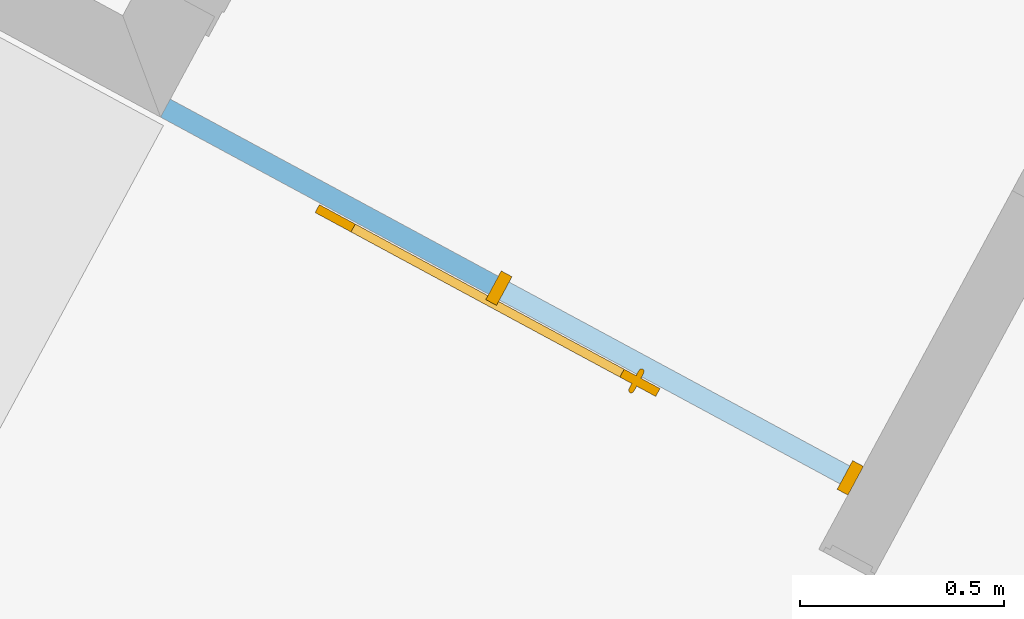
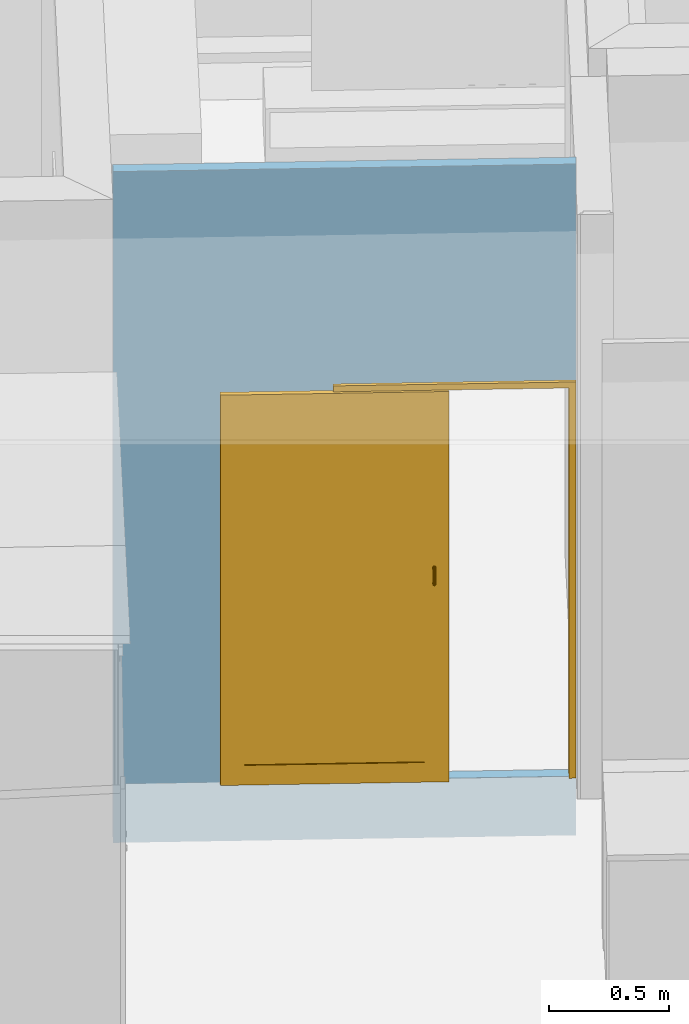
# One storey, part 8 of 41: 1 door, 1 opening, plus 1 element that does not belong to this part.
"""IFC2X3 building model written with IfcOpenShell, lengths in metres."""

from ifc_helpers import new_model, entity, si_unit, converted_unit, derived_unit, money_unit, direction, frame, origin_with_axes, place, context, subcontext, project, spatial, polyline, outline, extrude, open_shell, faceted_brep, surface_model, material, layer, layer_set, layer_usage, type_object, element, fill, save


model = new_model("IFC2X3")

# Units and contexts
model_context = context("Model", 3, precision=1e-05, world=origin_with_axes(), true_north=direction((0.0, 1.0)))
body_context = subcontext(model_context, "Body", "Model", "MODEL_VIEW")
ifc_project = project(units=[si_unit("LENGTHUNIT", "METRE"), si_unit("AREAUNIT", "SQUARE_METRE"), si_unit("VOLUMEUNIT", "CUBIC_METRE"), converted_unit("PLANEANGLEUNIT", "DEGREE", entity("IfcPlaneAngleMeasure", 0.0174532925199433), si_unit("PLANEANGLEUNIT", "RADIAN"), dimensions=[0, 0, 0, 0, 0, 0, 0]), money_unit("EUR"), converted_unit("TIMEUNIT", "Year", entity("IfcTimeMeasure", 31556926.0), si_unit("TIMEUNIT", "SECOND"), dimensions=[0, 0, 1, 0, 0, 0, 0]), si_unit("MASSUNIT", "GRAM", prefix="KILO"), si_unit("THERMODYNAMICTEMPERATUREUNIT", "DEGREE_CELSIUS"), si_unit("LUMINOUSINTENSITYUNIT", "LUMEN"), si_unit("ENERGYUNIT", "JOULE", prefix="MEGA"), derived_unit("THERMALCONDUCTANCEUNIT", [(si_unit("POWERUNIT", "WATT"), 1), (si_unit("LENGTHUNIT", "METRE"), -1), (si_unit("THERMODYNAMICTEMPERATUREUNIT", "KELVIN"), -1)]), derived_unit("SPECIFICHEATCAPACITYUNIT", [(si_unit("ENERGYUNIT", "JOULE"), 1), (si_unit("MASSUNIT", "GRAM", prefix="KILO"), -1), (si_unit("THERMODYNAMICTEMPERATUREUNIT", "KELVIN"), -1)]), derived_unit("MASSDENSITYUNIT", [(si_unit("MASSUNIT", "GRAM", prefix="KILO"), 1), (si_unit("VOLUMEUNIT", "CUBIC_METRE"), -1)])], contexts=[model_context])

# Site, building, storey
site_placement = place(None, frame((-3.949935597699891, 1.740105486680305, 0.0), z_axis=(0.0, 0.0, 1.0), x_axis=(0.8799804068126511, -0.475009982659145, 0.0)))
site = spatial("IfcSite", under=ifc_project, at=site_placement, Name="Gelände", CompositionType="ELEMENT")
building_placement = place(site_placement, origin_with_axes())
building = spatial("IfcBuilding", under=site, at=building_placement, Name="Gebäude", CompositionType="ELEMENT")
storey_placement = place(building_placement, frame((0.0, 0.0, 4.55), z_axis=(0.0, 0.0, 1.0), x_axis=(1.0, 0.0, 0.0)))
storey = spatial("IfcBuildingStorey", under=building, at=storey_placement, Name="Staffelgeschoss", CompositionType="ELEMENT", Elevation=4.55)

# Wall, opening, door
ifc_material = material(Name="ALLGEMEIN - BAUTEIL")
ifc_layer = layer(ifc_material, 0.05, ventilated="UNKNOWN")
ifc_layer_set = layer_set([ifc_layer], Name="ALLGEMEIN - BAUTEIL 0.05")
ifc_layer_usage = layer_usage(ifc_layer_set, "AXIS2", "POSITIVE", 0.0)
wall_type = type_object("IfcWallType", Name="ALLGEMEIN - BAUTEIL 50", PredefinedType="NOTDEFINED")
wall_placement = place(storey_placement, frame((17.36749336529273, 5.71806071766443, -0.2999999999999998), z_axis=(0.0, 0.0, 1.0), x_axis=(1.0, 0.0, 0.0)))
wall = element("IfcWallStandardCase", 1, at=wall_placement, inside=storey, type_object=wall_type, material=ifc_layer_usage, Name="I-Wand034", ObjectType="NOTDEFINED", context=body_context, shape_type="SweptSolid", body=[
    extrude(outline(polyline([(0.0, 0.0), (1.925039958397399, 0.0), (1.925039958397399, 0.04999999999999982), (0.0, 0.04999999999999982), (0.0, 0.0)])), origin_with_axes(), (0.0, 0.0, 1.0), 3.404999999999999),
])
opening_placement = place(wall_placement, frame((1.4200399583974, 0.0, 0.2999999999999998), z_axis=(0.0, 0.0, 1.0), x_axis=(1.0, 0.0, 0.0)))
opening = element("IfcOpeningElement", 2, at=opening_placement, cuts=wall, Name="I-Wand056", context=body_context, shape_type="Brep", body=[
    faceted_brep([(-0.504999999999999, 0.0, 0.0), (-0.504999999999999, 0.0, 1.98), (-0.504999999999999, -0.001000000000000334, 1.98), (-0.504999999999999, -0.001000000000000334, 2.01), (-0.504999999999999, 0.05100000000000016, 2.01), (-0.504999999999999, 0.05100000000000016, 0.0), (-1.515000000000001, 0.0, 0.0), (-1.515000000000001, 0.0, 1.98), (-1.515000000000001, -0.03000000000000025, 1.98), (-0.504999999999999, -0.03000000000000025, 1.98), (-0.504999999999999, -0.001000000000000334, 0.0), (0.504999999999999, -0.001000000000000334, 0.0), (0.504999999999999, -0.001000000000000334, 2.01), (0.504999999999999, 0.05100000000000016, 2.01), (0.504999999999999, 0.05100000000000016, 0.0), (-0.504999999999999, -0.03000000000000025, 0.0), (-1.515000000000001, -0.03000000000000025, 0.0)], [[[0, 1, 2, 3, 4, 5]], [[1, 0, 6, 7]], [[2, 1, 7, 8, 9]], [[2, 10, 11, 12, 3]], [[13, 4, 3, 12]], [[14, 5, 4, 13]], [[10, 0, 5, 14, 11]], [[0, 10, 15, 16, 6]], [[8, 7, 6, 16]], [[9, 8, 16, 15]], [[10, 2, 9, 15]], [[14, 13, 12, 11]]]),
])
door_style = type_object("IfcDoorStyle", Name="Schiebetür 02 1 22", ConstructionType="NOTDEFINED", OperationType="SLIDING_TO_RIGHT", ParameterTakesPrecedence=False, Sizeable=False)
door_placement = place(opening_placement, frame((-0.5050000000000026, 0.0, 0.0), z_axis=(0.0, 0.0, 1.0), x_axis=(1.0, 0.0, 0.0)))
door = element("IfcDoor", 3, at=door_placement, inside=storey, type_object=door_style, Name="I-Wand056", ObjectType="DOOR", OverallHeight=2.01, OverallWidth=1.01, context=body_context, shape_type="SurfaceModel", body=[
    faceted_brep([(0.0, 0.0649999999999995, 0.0), (0.02999999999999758, 0.0649999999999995, 0.0), (0.02999999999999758, 0.04999999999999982, 0.0), (0.0, 0.04999999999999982, 0.0), (0.0, 0.0649999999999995, 2.01), (1.009999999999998, 0.0649999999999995, 2.01), (1.009999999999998, 0.0649999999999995, 0.0), (0.9800000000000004, 0.0649999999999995, 0.0), (0.9800000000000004, 0.0649999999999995, 1.98), (0.02999999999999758, 0.0649999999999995, 1.98), (0.02999999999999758, 0.04999999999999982, 1.98), (0.9800000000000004, 0.04999999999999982, 1.98), (0.9800000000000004, 0.04999999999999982, 0.0), (1.009999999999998, 0.04999999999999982, 0.0), (1.009999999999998, 0.04999999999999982, 2.01), (0.0, 0.04999999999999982, 2.01)], [[[0, 1, 2, 3]], [[0, 4, 5, 6, 7, 8, 9, 1]], [[1, 9, 10, 2]], [[3, 2, 10, 11, 12, 13, 14, 15]], [[4, 0, 3, 15]], [[5, 4, 15, 14]], [[6, 5, 14, 13]], [[7, 6, 13, 12]], [[8, 7, 12, 11]], [[9, 8, 11, 10]]]),
    faceted_brep([(0.0, 0.04999999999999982, 0.0), (0.02999999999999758, 0.04999999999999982, 0.0), (0.02999999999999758, 0.0, 0.0), (0.0, 0.0, 0.0), (0.0, 0.04999999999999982, 2.01), (1.009999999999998, 0.04999999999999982, 2.01), (1.009999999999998, 0.04999999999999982, 0.0), (0.9800000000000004, 0.04999999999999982, 0.0), (0.9800000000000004, 0.04999999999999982, 1.98), (0.02999999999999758, 0.04999999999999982, 1.98), (0.02999999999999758, 0.0, 1.98), (0.9800000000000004, 0.0, 1.98), (0.9800000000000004, 0.0, 0.0), (1.009999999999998, 0.0, 0.0), (1.009999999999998, 0.0, 2.01), (0.0, 0.0, 2.01)], [[[0, 1, 2, 3]], [[0, 4, 5, 6, 7, 8, 9, 1]], [[1, 9, 10, 2]], [[3, 2, 10, 11, 12, 13, 14, 15]], [[4, 0, 3, 15]], [[5, 4, 15, 14]], [[6, 5, 14, 13]], [[7, 6, 13, 12]], [[8, 7, 12, 11]], [[9, 8, 11, 10]]]),
    faceted_brep([(0.0, 0.0, 0.0), (0.02999999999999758, 0.0, 0.0), (0.02999999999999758, -0.01500000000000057, 0.0), (0.0, -0.01500000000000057, 0.0), (0.0, 0.0, 2.01), (1.009999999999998, 0.0, 2.01), (1.009999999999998, 0.0, 0.0), (0.9800000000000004, 0.0, 0.0), (0.9800000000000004, 0.0, 1.98), (0.02999999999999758, 0.0, 1.98), (0.02999999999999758, -0.01499999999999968, 1.98), (0.9800000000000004, -0.01499999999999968, 1.98), (0.9800000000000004, -0.01500000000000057, 0.0), (1.009999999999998, -0.01500000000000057, 0.0), (1.009999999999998, -0.01499999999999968, 2.01), (0.0, -0.01499999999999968, 2.01)], [[[0, 1, 2, 3]], [[0, 4, 5, 6, 7, 8, 9, 1]], [[1, 9, 10, 2]], [[3, 2, 10, 11, 12, 13, 14, 15]], [[4, 0, 3, 15]], [[5, 4, 15, 14]], [[6, 5, 14, 13]], [[7, 6, 13, 12]], [[8, 7, 12, 11]], [[9, 8, 11, 10]]]),
    faceted_brep([(-0.4699500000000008, -0.004000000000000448, 0.09999999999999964), (-0.3699499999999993, -0.004000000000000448, 0.09999999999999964), (-0.3699499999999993, -0.0259999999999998, 0.09999999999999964), (-0.4699500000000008, -0.0259999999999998, 0.09999999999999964), (-0.4699500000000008, -0.004000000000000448, 1.8799), (-0.3699499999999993, -0.004000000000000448, 1.8799), (-0.3699499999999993, -0.0259999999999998, 1.8799), (-0.4699500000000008, -0.0259999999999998, 1.8799)], [[[0, 1, 2, 3]], [[0, 4, 5, 1]], [[1, 5, 6, 2]], [[3, 2, 6, 7]], [[4, 0, 3, 7]], [[5, 4, 7, 6]]]),
    faceted_brep([(0.4799499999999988, -0.004000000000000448, 1.8799), (0.3799499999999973, -0.004000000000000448, 1.8799), (0.3799499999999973, -0.0259999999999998, 1.8799), (0.4799499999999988, -0.0259999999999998, 1.8799), (0.4799499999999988, -0.004000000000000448, 0.09999999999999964), (0.3799499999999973, -0.004000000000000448, 0.09999999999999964), (0.3799499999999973, -0.0259999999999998, 0.09999999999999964), (0.4799499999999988, -0.0259999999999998, 0.09999999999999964)], [[[0, 1, 2, 3]], [[0, 4, 5, 1]], [[1, 5, 6, 2]], [[3, 2, 6, 7]], [[4, 0, 3, 7]], [[5, 4, 7, 6]]]),
    faceted_brep([(0.4799499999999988, -0.004000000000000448, 0.0), (0.4799499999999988, -0.004000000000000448, 0.09999999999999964), (0.4799499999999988, -0.0259999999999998, 0.09999999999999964), (0.4799499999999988, -0.0259999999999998, 0.0), (-0.4699500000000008, -0.004000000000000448, 0.0), (-0.4699500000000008, -0.004000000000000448, 0.09999999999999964), (-0.3699499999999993, -0.004000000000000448, 0.09999999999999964), (0.3799499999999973, -0.004000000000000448, 0.09999999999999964), (0.3799499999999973, -0.0259999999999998, 0.09999999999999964), (-0.3699499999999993, -0.0259999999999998, 0.09999999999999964), (-0.4699500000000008, -0.0259999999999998, 0.09999999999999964), (-0.4699500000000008, -0.0259999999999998, 0.0)], [[[0, 1, 2, 3]], [[0, 4, 5, 6, 7, 1]], [[1, 7, 8, 2]], [[3, 2, 8, 9, 10, 11]], [[4, 0, 3, 11]], [[5, 4, 11, 10]], [[6, 5, 10, 9]], [[7, 6, 9, 8]]]),
    faceted_brep([(-0.4699500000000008, -0.004000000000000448, 1.9799), (-0.4699500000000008, -0.004000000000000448, 1.8799), (-0.4699500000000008, -0.0259999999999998, 1.8799), (-0.4699500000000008, -0.0259999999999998, 1.9799), (0.4799499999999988, -0.004000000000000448, 1.9799), (0.4799499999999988, -0.004000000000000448, 1.8799), (0.3799499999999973, -0.004000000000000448, 1.8799), (-0.3699499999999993, -0.004000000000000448, 1.8799), (-0.3699499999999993, -0.0259999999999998, 1.8799), (0.3799499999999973, -0.0259999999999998, 1.8799), (0.4799499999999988, -0.0259999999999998, 1.8799), (0.4799499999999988, -0.0259999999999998, 1.9799)], [[[0, 1, 2, 3]], [[0, 4, 5, 6, 7, 1]], [[1, 7, 8, 2]], [[3, 2, 8, 9, 10, 11]], [[4, 0, 3, 11]], [[5, 4, 11, 10]], [[6, 5, 10, 9]], [[7, 6, 9, 8]]]),
    surface_model("IfcShellBasedSurfaceModel", [(-0.3699499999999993, -0.009000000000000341, 0.09999999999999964), (-0.3699499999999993, -0.009000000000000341, 1.8799), (0.3799499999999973, -0.009000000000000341, 1.8799), (0.3799499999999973, -0.009000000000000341, 0.09999999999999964)], [open_shell([[[0, 1, 2, 3]]])]),
    surface_model("IfcShellBasedSurfaceModel", [(-0.3699499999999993, -0.02099999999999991, 0.09999999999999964), (0.3799499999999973, -0.02099999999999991, 0.09999999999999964), (0.3799499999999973, -0.02099999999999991, 1.8799), (-0.3699499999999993, -0.02099999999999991, 1.8799)], [open_shell([[[0, 1, 2, 3]]])]),
    faceted_brep([(0.4129499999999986, -0.04100000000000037, 1.085980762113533), (0.4138878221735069, -0.04274999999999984, 1.089011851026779), (0.4138878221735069, -0.0259999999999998, 1.0935), (0.4129499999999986, -0.0259999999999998, 1.09), (0.4129499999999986, -0.05198076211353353, 1.075), (0.4138878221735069, -0.05501185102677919, 1.07675), (0.4164499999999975, -0.04403108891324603, 1.091230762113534), (0.4164499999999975, -0.0259999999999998, 1.096062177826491), (0.41995, -0.0259999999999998, 1.097), (0.423449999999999, -0.0259999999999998, 1.096062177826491), (0.4260121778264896, -0.0259999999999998, 1.0935), (0.4269499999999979, -0.0259999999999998, 1.09), (0.4260121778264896, -0.0259999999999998, 1.0865), (0.423449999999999, -0.0259999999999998, 1.083937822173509), (0.41995, -0.0259999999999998, 1.083), (0.4164499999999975, -0.0259999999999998, 1.083937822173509), (0.4138878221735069, -0.0259999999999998, 1.0865), (0.4138878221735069, -0.03925000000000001, 1.082949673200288), (0.4129499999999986, -0.05600000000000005, 1.06), (0.4138878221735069, -0.05949999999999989, 1.06), (0.4164499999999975, -0.05723076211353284, 1.078031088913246), (0.4138878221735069, -0.04894967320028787, 1.07325), (0.41995, -0.04450000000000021, 1.092042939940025), (0.423449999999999, -0.04403108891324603, 1.091230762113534), (0.4260121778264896, -0.04274999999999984, 1.089011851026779), (0.4269499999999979, -0.04100000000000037, 1.085980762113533), (0.4260121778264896, -0.03925000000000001, 1.082949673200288), (0.423449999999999, -0.03796891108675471, 1.080730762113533), (0.41995, -0.03750000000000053, 1.079918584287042), (0.4164499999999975, -0.03796891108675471, 1.080730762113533), (0.4138878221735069, -0.05250000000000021, 1.06), (0.4164499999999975, -0.04993782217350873, 1.06), (0.41995, -0.04900000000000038, 1.06), (0.423449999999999, -0.04993782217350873, 1.06), (0.4260121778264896, -0.05250000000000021, 1.06), (0.4269499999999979, -0.05600000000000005, 1.06), (0.4260121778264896, -0.05949999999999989, 1.06), (0.423449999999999, -0.06206217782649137, 1.06), (0.41995, -0.06299999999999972, 1.06), (0.4164499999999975, -0.06206217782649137, 1.06), (0.41995, -0.05804293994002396, 1.0785), (0.4164499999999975, -0.04673076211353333, 1.071968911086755), (0.423449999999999, -0.05723076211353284, 1.078031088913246), (0.4260121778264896, -0.05501185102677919, 1.07675), (0.4269499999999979, -0.05198076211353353, 1.075), (0.4260121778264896, -0.04894967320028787, 1.07325), (0.423449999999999, -0.04673076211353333, 1.071968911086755), (0.41995, -0.04591858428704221, 1.0715)], [[[0, 1, 2, 3]], [[4, 5, 1, 0]], [[1, 6, 7, 2]], [[3, 2, 7, 8, 9, 10, 11, 12, 13, 14, 15, 16]], [[17, 0, 3, 16]], [[18, 19, 5, 4]], [[5, 20, 6, 1]], [[21, 4, 0, 17]], [[6, 22, 8, 7]], [[22, 23, 9, 8]], [[23, 24, 10, 9]], [[24, 25, 11, 10]], [[25, 26, 12, 11]], [[26, 27, 13, 12]], [[27, 28, 14, 13]], [[28, 29, 15, 14]], [[29, 17, 16, 15]], [[18, 30, 31, 32, 33, 34, 35, 36, 37, 38, 39, 19]], [[19, 39, 20, 5]], [[30, 18, 4, 21]], [[20, 40, 22, 6]], [[41, 21, 17, 29]], [[40, 42, 23, 22]], [[42, 43, 24, 23]], [[43, 44, 25, 24]], [[44, 45, 26, 25]], [[45, 46, 27, 26]], [[46, 47, 28, 27]], [[47, 41, 29, 28]], [[31, 30, 21, 41]], [[32, 31, 41, 47]], [[33, 32, 47, 46]], [[34, 33, 46, 45]], [[35, 34, 45, 44]], [[36, 35, 44, 43]], [[37, 36, 43, 42]], [[38, 37, 42, 40]], [[39, 38, 40, 20]]]),
    faceted_brep([(0.4269499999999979, -0.04100000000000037, 1.014019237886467), (0.4260121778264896, -0.04274999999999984, 1.010988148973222), (0.4260121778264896, -0.0259999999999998, 1.0065), (0.4269499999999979, -0.0259999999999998, 1.01), (0.4269499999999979, -0.05198076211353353, 1.025), (0.4260121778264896, -0.05501185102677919, 1.02325), (0.423449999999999, -0.04403108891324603, 1.008769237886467), (0.423449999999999, -0.0259999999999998, 1.003937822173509), (0.41995, -0.0259999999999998, 1.003), (0.4164499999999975, -0.0259999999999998, 1.003937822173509), (0.4138878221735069, -0.0259999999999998, 1.0065), (0.4129499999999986, -0.0259999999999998, 1.01), (0.4138878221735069, -0.0259999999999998, 1.0135), (0.4164499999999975, -0.0259999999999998, 1.016062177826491), (0.41995, -0.0259999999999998, 1.017), (0.423449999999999, -0.0259999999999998, 1.016062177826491), (0.4260121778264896, -0.0259999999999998, 1.0135), (0.4260121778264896, -0.03925000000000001, 1.017050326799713), (0.4269499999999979, -0.05600000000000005, 1.04), (0.4260121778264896, -0.05949999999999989, 1.04), (0.423449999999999, -0.05723076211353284, 1.021968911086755), (0.4260121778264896, -0.04894967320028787, 1.02675), (0.41995, -0.04450000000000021, 1.007957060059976), (0.4164499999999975, -0.04403108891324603, 1.008769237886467), (0.4138878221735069, -0.04274999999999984, 1.010988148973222), (0.4129499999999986, -0.04100000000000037, 1.014019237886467), (0.4138878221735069, -0.03925000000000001, 1.017050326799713), (0.4164499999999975, -0.03796891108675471, 1.019269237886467), (0.41995, -0.03750000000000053, 1.020081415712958), (0.423449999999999, -0.03796891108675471, 1.019269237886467), (0.4260121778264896, -0.05250000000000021, 1.04), (0.423449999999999, -0.04993782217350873, 1.04), (0.41995, -0.04900000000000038, 1.04), (0.4164499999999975, -0.04993782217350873, 1.04), (0.4138878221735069, -0.05250000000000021, 1.04), (0.4129499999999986, -0.05600000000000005, 1.04), (0.4138878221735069, -0.05949999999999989, 1.04), (0.4164499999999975, -0.06206217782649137, 1.04), (0.41995, -0.06299999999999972, 1.04), (0.423449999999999, -0.06206217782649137, 1.04), (0.41995, -0.05804293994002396, 1.021500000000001), (0.423449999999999, -0.04673076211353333, 1.028031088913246), (0.4164499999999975, -0.05723076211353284, 1.021968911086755), (0.4138878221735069, -0.05501185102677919, 1.02325), (0.4129499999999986, -0.05198076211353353, 1.025), (0.4138878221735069, -0.04894967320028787, 1.02675), (0.4164499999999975, -0.04673076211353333, 1.028031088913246), (0.41995, -0.04591858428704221, 1.0285)], [[[0, 1, 2, 3]], [[4, 5, 1, 0]], [[1, 6, 7, 2]], [[3, 2, 7, 8, 9, 10, 11, 12, 13, 14, 15, 16]], [[17, 0, 3, 16]], [[18, 19, 5, 4]], [[5, 20, 6, 1]], [[21, 4, 0, 17]], [[6, 22, 8, 7]], [[22, 23, 9, 8]], [[23, 24, 10, 9]], [[24, 25, 11, 10]], [[25, 26, 12, 11]], [[26, 27, 13, 12]], [[27, 28, 14, 13]], [[28, 29, 15, 14]], [[29, 17, 16, 15]], [[18, 30, 31, 32, 33, 34, 35, 36, 37, 38, 39, 19]], [[19, 39, 20, 5]], [[30, 18, 4, 21]], [[20, 40, 22, 6]], [[41, 21, 17, 29]], [[40, 42, 23, 22]], [[42, 43, 24, 23]], [[43, 44, 25, 24]], [[44, 45, 26, 25]], [[45, 46, 27, 26]], [[46, 47, 28, 27]], [[47, 41, 29, 28]], [[31, 30, 21, 41]], [[32, 31, 41, 47]], [[33, 32, 47, 46]], [[34, 33, 46, 45]], [[35, 34, 45, 44]], [[36, 35, 44, 43]], [[37, 36, 43, 42]], [[38, 37, 42, 40]], [[39, 38, 40, 20]]]),
    faceted_brep([(0.4129499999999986, -0.05600000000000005, 1.04), (0.4129499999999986, -0.05600000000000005, 1.06), (0.4138878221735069, -0.05250000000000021, 1.06), (0.4138878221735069, -0.05250000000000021, 1.04), (0.4138878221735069, -0.05949999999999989, 1.04), (0.4138878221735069, -0.05949999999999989, 1.06), (0.4164499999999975, -0.06206217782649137, 1.06), (0.41995, -0.06299999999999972, 1.06), (0.423449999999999, -0.06206217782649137, 1.06), (0.4260121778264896, -0.05949999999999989, 1.06), (0.4269499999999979, -0.05600000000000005, 1.06), (0.4260121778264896, -0.05250000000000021, 1.06), (0.423449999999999, -0.04993782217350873, 1.06), (0.41995, -0.04900000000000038, 1.06), (0.4164499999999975, -0.04993782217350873, 1.06), (0.4164499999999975, -0.04993782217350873, 1.04), (0.41995, -0.04900000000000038, 1.04), (0.423449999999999, -0.04993782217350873, 1.04), (0.4260121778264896, -0.05250000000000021, 1.04), (0.4269499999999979, -0.05600000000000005, 1.04), (0.4260121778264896, -0.05949999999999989, 1.04), (0.423449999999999, -0.06206217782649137, 1.04), (0.41995, -0.06299999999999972, 1.04), (0.4164499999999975, -0.06206217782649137, 1.04)], [[[0, 1, 2, 3]], [[4, 5, 1, 0]], [[1, 5, 6, 7, 8, 9, 10, 11, 12, 13, 14, 2]], [[3, 2, 14, 15]], [[0, 3, 15, 16, 17, 18, 19, 20, 21, 22, 23, 4]], [[23, 6, 5, 4]], [[22, 7, 6, 23]], [[21, 8, 7, 22]], [[20, 9, 8, 21]], [[19, 10, 9, 20]], [[18, 11, 10, 19]], [[17, 12, 11, 18]], [[16, 13, 12, 17]], [[15, 14, 13, 16]]]),
    faceted_brep([(0.4129499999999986, 0.01100000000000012, 1.085980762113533), (0.4129499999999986, -0.004000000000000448, 1.09), (0.4138878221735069, -0.004000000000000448, 1.0935), (0.4138878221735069, 0.01274999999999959, 1.089011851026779), (0.4138878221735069, 0.009249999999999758, 1.082949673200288), (0.4138878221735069, -0.004000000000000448, 1.0865), (0.4164499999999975, -0.004000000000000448, 1.083937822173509), (0.41995, -0.004000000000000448, 1.083), (0.423449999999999, -0.004000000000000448, 1.083937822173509), (0.4260121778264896, -0.004000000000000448, 1.0865), (0.4269499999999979, -0.004000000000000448, 1.09), (0.4260121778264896, -0.004000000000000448, 1.0935), (0.423449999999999, -0.004000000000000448, 1.096062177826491), (0.41995, -0.004000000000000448, 1.097), (0.4164499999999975, -0.004000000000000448, 1.096062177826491), (0.4164499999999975, 0.01403108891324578, 1.091230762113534), (0.4129499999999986, 0.02198076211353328, 1.075), (0.4138878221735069, 0.02501185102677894, 1.07675), (0.4164499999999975, 0.00796891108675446, 1.080730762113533), (0.4138878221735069, 0.01894967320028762, 1.07325), (0.41995, 0.007500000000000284, 1.079918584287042), (0.423449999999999, 0.00796891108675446, 1.080730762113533), (0.4260121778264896, 0.009249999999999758, 1.082949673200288), (0.4269499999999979, 0.01100000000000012, 1.085980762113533), (0.4260121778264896, 0.01274999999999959, 1.089011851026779), (0.423449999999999, 0.01403108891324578, 1.091230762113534), (0.41995, 0.01449999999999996, 1.092042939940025), (0.4164499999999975, 0.02723076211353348, 1.078031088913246), (0.4129499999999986, 0.0259999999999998, 1.06), (0.4138878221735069, 0.02949999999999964, 1.06), (0.4164499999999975, 0.01673076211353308, 1.071968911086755), (0.4138878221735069, 0.02249999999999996, 1.06), (0.41995, 0.01591858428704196, 1.0715), (0.423449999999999, 0.01673076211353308, 1.071968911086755), (0.4260121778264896, 0.01894967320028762, 1.07325), (0.4269499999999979, 0.02198076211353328, 1.075), (0.4260121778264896, 0.02501185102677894, 1.07675), (0.423449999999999, 0.02723076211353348, 1.078031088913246), (0.41995, 0.02804293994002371, 1.0785), (0.4164499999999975, 0.03206217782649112, 1.06), (0.41995, 0.03299999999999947, 1.06), (0.423449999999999, 0.03206217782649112, 1.06), (0.4260121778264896, 0.02949999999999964, 1.06), (0.4269499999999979, 0.0259999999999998, 1.06), (0.4260121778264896, 0.02249999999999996, 1.06), (0.423449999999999, 0.01993782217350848, 1.06), (0.41995, 0.01900000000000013, 1.06), (0.4164499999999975, 0.01993782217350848, 1.06)], [[[0, 1, 2, 3]], [[4, 5, 1, 0]], [[1, 5, 6, 7, 8, 9, 10, 11, 12, 13, 14, 2]], [[3, 2, 14, 15]], [[16, 0, 3, 17]], [[18, 6, 5, 4]], [[19, 4, 0, 16]], [[20, 7, 6, 18]], [[21, 8, 7, 20]], [[22, 9, 8, 21]], [[23, 10, 9, 22]], [[24, 11, 10, 23]], [[25, 12, 11, 24]], [[26, 13, 12, 25]], [[15, 14, 13, 26]], [[17, 3, 15, 27]], [[28, 16, 17, 29]], [[30, 18, 4, 19]], [[31, 19, 16, 28]], [[32, 20, 18, 30]], [[33, 21, 20, 32]], [[34, 22, 21, 33]], [[35, 23, 22, 34]], [[36, 24, 23, 35]], [[37, 25, 24, 36]], [[38, 26, 25, 37]], [[27, 15, 26, 38]], [[29, 17, 27, 39]], [[28, 29, 39, 40, 41, 42, 43, 44, 45, 46, 47, 31]], [[47, 30, 19, 31]], [[46, 32, 30, 47]], [[45, 33, 32, 46]], [[44, 34, 33, 45]], [[43, 35, 34, 44]], [[42, 36, 35, 43]], [[41, 37, 36, 42]], [[40, 38, 37, 41]], [[39, 27, 38, 40]]]),
    faceted_brep([(0.4269499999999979, 0.01100000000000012, 1.014019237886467), (0.4269499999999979, -0.004000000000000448, 1.01), (0.4260121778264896, -0.004000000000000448, 1.0065), (0.4260121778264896, 0.01274999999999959, 1.010988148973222), (0.4260121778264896, 0.009249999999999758, 1.017050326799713), (0.4260121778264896, -0.004000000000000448, 1.0135), (0.423449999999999, -0.004000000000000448, 1.016062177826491), (0.41995, -0.004000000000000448, 1.017), (0.4164499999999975, -0.004000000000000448, 1.016062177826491), (0.4138878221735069, -0.004000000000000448, 1.0135), (0.4129499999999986, -0.004000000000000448, 1.01), (0.4138878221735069, -0.004000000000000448, 1.0065), (0.4164499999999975, -0.004000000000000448, 1.003937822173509), (0.41995, -0.004000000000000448, 1.003), (0.423449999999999, -0.004000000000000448, 1.003937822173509), (0.423449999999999, 0.01403108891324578, 1.008769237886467), (0.4269499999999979, 0.02198076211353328, 1.025), (0.4260121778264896, 0.02501185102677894, 1.02325), (0.423449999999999, 0.00796891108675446, 1.019269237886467), (0.4260121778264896, 0.01894967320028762, 1.02675), (0.41995, 0.007500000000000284, 1.020081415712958), (0.4164499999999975, 0.00796891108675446, 1.019269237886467), (0.4138878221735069, 0.009249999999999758, 1.017050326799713), (0.4129499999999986, 0.01100000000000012, 1.014019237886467), (0.4138878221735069, 0.01274999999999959, 1.010988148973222), (0.4164499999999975, 0.01403108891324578, 1.008769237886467), (0.41995, 0.01449999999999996, 1.007957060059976), (0.423449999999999, 0.02723076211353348, 1.021968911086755), (0.4269499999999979, 0.0259999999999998, 1.04), (0.4260121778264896, 0.02949999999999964, 1.04), (0.423449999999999, 0.01673076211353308, 1.028031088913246), (0.4260121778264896, 0.02249999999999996, 1.04), (0.41995, 0.01591858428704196, 1.0285), (0.4164499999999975, 0.01673076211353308, 1.028031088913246), (0.4138878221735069, 0.01894967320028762, 1.02675), (0.4129499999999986, 0.02198076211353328, 1.025), (0.4138878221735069, 0.02501185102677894, 1.02325), (0.4164499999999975, 0.02723076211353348, 1.021968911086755), (0.41995, 0.02804293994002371, 1.021500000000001), (0.423449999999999, 0.03206217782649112, 1.04), (0.41995, 0.03299999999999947, 1.04), (0.4164499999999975, 0.03206217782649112, 1.04), (0.4138878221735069, 0.02949999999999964, 1.04), (0.4129499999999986, 0.0259999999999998, 1.04), (0.4138878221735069, 0.02249999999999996, 1.04), (0.4164499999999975, 0.01993782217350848, 1.04), (0.41995, 0.01900000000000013, 1.04), (0.423449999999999, 0.01993782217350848, 1.04)], [[[0, 1, 2, 3]], [[4, 5, 1, 0]], [[1, 5, 6, 7, 8, 9, 10, 11, 12, 13, 14, 2]], [[3, 2, 14, 15]], [[16, 0, 3, 17]], [[18, 6, 5, 4]], [[19, 4, 0, 16]], [[20, 7, 6, 18]], [[21, 8, 7, 20]], [[22, 9, 8, 21]], [[23, 10, 9, 22]], [[24, 11, 10, 23]], [[25, 12, 11, 24]], [[26, 13, 12, 25]], [[15, 14, 13, 26]], [[17, 3, 15, 27]], [[28, 16, 17, 29]], [[30, 18, 4, 19]], [[31, 19, 16, 28]], [[32, 20, 18, 30]], [[33, 21, 20, 32]], [[34, 22, 21, 33]], [[35, 23, 22, 34]], [[36, 24, 23, 35]], [[37, 25, 24, 36]], [[38, 26, 25, 37]], [[27, 15, 26, 38]], [[29, 17, 27, 39]], [[28, 29, 39, 40, 41, 42, 43, 44, 45, 46, 47, 31]], [[47, 30, 19, 31]], [[46, 32, 30, 47]], [[45, 33, 32, 46]], [[44, 34, 33, 45]], [[43, 35, 34, 44]], [[42, 36, 35, 43]], [[41, 37, 36, 42]], [[40, 38, 37, 41]], [[39, 27, 38, 40]]]),
    faceted_brep([(0.4129499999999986, 0.0259999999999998, 1.04), (0.4138878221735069, 0.02249999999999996, 1.04), (0.4138878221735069, 0.02249999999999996, 1.06), (0.4129499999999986, 0.0259999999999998, 1.06), (0.4138878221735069, 0.02949999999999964, 1.04), (0.4164499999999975, 0.03206217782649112, 1.04), (0.41995, 0.03299999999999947, 1.04), (0.423449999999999, 0.03206217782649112, 1.04), (0.4260121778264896, 0.02949999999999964, 1.04), (0.4269499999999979, 0.0259999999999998, 1.04), (0.4260121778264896, 0.02249999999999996, 1.04), (0.423449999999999, 0.01993782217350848, 1.04), (0.41995, 0.01900000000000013, 1.04), (0.4164499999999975, 0.01993782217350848, 1.04), (0.4164499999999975, 0.01993782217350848, 1.06), (0.41995, 0.01900000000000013, 1.06), (0.423449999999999, 0.01993782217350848, 1.06), (0.4260121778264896, 0.02249999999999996, 1.06), (0.4269499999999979, 0.0259999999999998, 1.06), (0.4260121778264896, 0.02949999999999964, 1.06), (0.423449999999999, 0.03206217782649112, 1.06), (0.41995, 0.03299999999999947, 1.06), (0.4164499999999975, 0.03206217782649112, 1.06), (0.4138878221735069, 0.02949999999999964, 1.06)], [[[0, 1, 2, 3]], [[0, 4, 5, 6, 7, 8, 9, 10, 11, 12, 13, 1]], [[1, 13, 14, 2]], [[3, 2, 14, 15, 16, 17, 18, 19, 20, 21, 22, 23]], [[4, 0, 3, 23]], [[5, 4, 23, 22]], [[6, 5, 22, 21]], [[7, 6, 21, 20]], [[8, 7, 20, 19]], [[9, 8, 19, 18]], [[10, 9, 18, 17]], [[11, 10, 17, 16]], [[12, 11, 16, 15]], [[13, 12, 15, 14]]]),
])
fill(opening, door)

save(model, "model.ifc")
